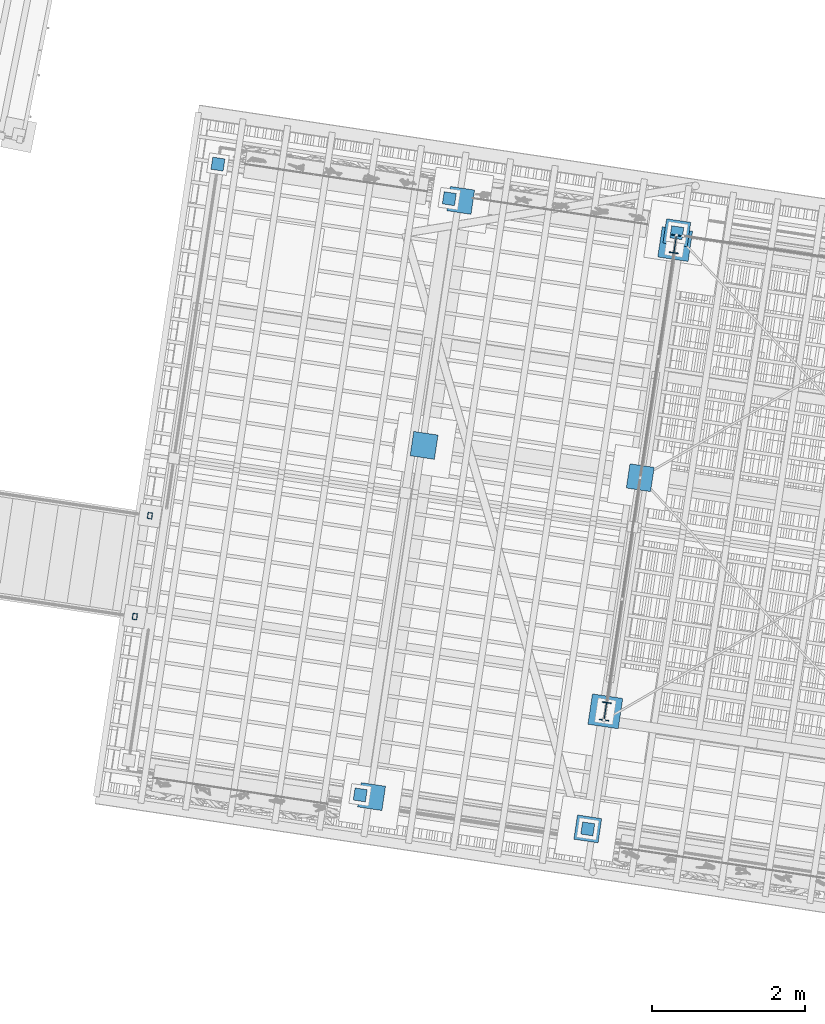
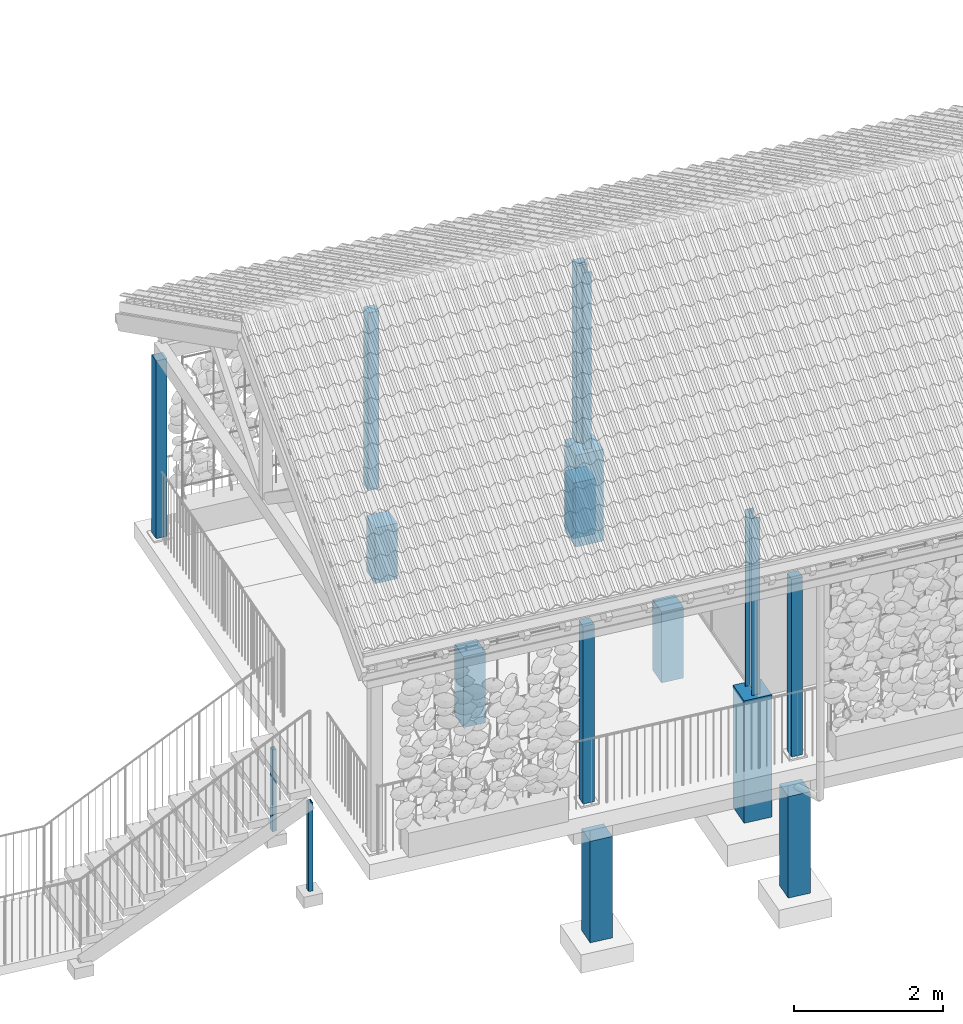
# One storey, part 2 of 131: 17 columns, 3 elements without a shape of their own.
"""IFC4 building model written with IfcOpenShell, lengths in metres."""

import ifcopenshell
import ifcopenshell.guid

model = None  # the IFC model being written
_history = None  # IfcOwnerHistory: only IFC2X3 demands one
_inside = {}  # id of a spatial element -> (the spatial element, [elements in it])
_under = {}  # id of a project, library or spatial element -> (it, [spatial elements below it])
_declared = {}  # id of a project -> (the project, [libraries it declares])
_typed = {}  # id of a type object -> (the type object, [elements of that type])
_made_of = {}  # id of a material, layer set ... -> (it, [elements and type objects made of it])


def new_model(schema):
    """Start an empty IFC model of exactly this schema.

    Asked for "IFC4X3", IfcOpenShell would pick the latest addendum, in which some entities
    have other attributes; the version numbers below select the first issue.
    IFC2X3 requires an IfcOwnerHistory on every rooted entity: one is made here for all.
    """
    global model, _history
    if schema == "IFC4X3":
        model = ifcopenshell.file(schema_version=(4, 3, 0, 0))
    else:
        model = ifcopenshell.file(schema=schema)
    _inside.clear()
    _under.clear()
    _declared.clear()
    _typed.clear()
    _made_of.clear()
    _history = None
    if model.schema == "IFC2X3":
        org = make("IfcOrganization", Name="unknown")
        user = make(
            "IfcPersonAndOrganization",
            ThePerson=make("IfcPerson", FamilyName="unknown"),
            TheOrganization=org,
        )
        app = make(
            "IfcApplication",
            ApplicationDeveloper=org,
            Version="unknown",
            ApplicationFullName="unknown",
            ApplicationIdentifier="unknown",
        )
        _history = make(
            "IfcOwnerHistory",
            OwningUser=user,
            OwningApplication=app,
            ChangeAction="ADDED",
            CreationDate=0,
        )
    return model


def make(cls, **values):
    """One entity of the class cls with the attributes given. An attribute that is None is left unset."""
    return model.create_entity(
        cls, **{name: value for name, value in values.items() if value is not None}
    )


def rooted(cls, **values):
    """An entity with a GlobalId (a new one), such as an element, a storey or a relation."""
    return make(cls, GlobalId=ifcopenshell.guid.new(), OwnerHistory=_history, **values)


def si_unit(unit_type, name, prefix=None):
    """IfcSIUnit, for example si_unit("LENGTHUNIT", "METRE", prefix="MILLI")."""
    return make("IfcSIUnit", UnitType=unit_type, Prefix=prefix, Name=name)


def assignment(units):
    """IfcUnitAssignment: the units of a project."""
    return None if units is None else make("IfcUnitAssignment", Units=units)


def point(xyz):
    """IfcCartesianPoint."""
    return None if xyz is None else make("IfcCartesianPoint", Coordinates=xyz)


def direction(xyz):
    """IfcDirection."""
    return None if xyz is None else make("IfcDirection", DirectionRatios=xyz)


def frame(location, z_axis=None, x_axis=None):
    """IfcAxis2Placement3D, a coordinate frame: its origin and axes. An axis left out is left unset."""
    return make(
        "IfcAxis2Placement3D",
        Location=point(location),
        Axis=direction(z_axis),
        RefDirection=direction(x_axis),
    )


def origin_with_axes():
    """The frame at (0, 0, 0) with the z axis (0, 0, 1) and the x axis (1, 0, 0) written out."""
    return frame((0.0, 0.0, 0.0), z_axis=(0.0, 0.0, 1.0), x_axis=(1.0, 0.0, 0.0))


def place(relative_to, where):
    """IfcLocalPlacement: puts the frame where relative to a parent placement (None: the world)."""
    return make(
        "IfcLocalPlacement", PlacementRelTo=relative_to, RelativePlacement=where
    )


def context(
    kind, dimensions, precision=None, world=None, true_north=None, identifier=None
):
    """IfcGeometricRepresentationContext, for example the 3D "Model" context."""
    return make(
        "IfcGeometricRepresentationContext",
        ContextIdentifier=identifier,
        ContextType=kind,
        CoordinateSpaceDimension=dimensions,
        Precision=precision,
        WorldCoordinateSystem=world,
        TrueNorth=true_north,
    )


def subcontext(parent, identifier, kind, view, scale=None):
    """IfcGeometricRepresentationSubContext, for example "Body" below "Model"."""
    return make(
        "IfcGeometricRepresentationSubContext",
        ContextIdentifier=identifier,
        ContextType=kind,
        ParentContext=parent,
        TargetScale=scale,
        TargetView=view,
    )


def project(units=None, contexts=None):
    """IfcProject with its units and contexts."""
    return rooted(
        "IfcProject",
        Name="project",
        RepresentationContexts=contexts,
        UnitsInContext=assignment(units),
    )


def spatial(cls, under=None, at=None, **own):
    """A site, building, storey or space (cls), placed at a placement, below another one or the project."""
    s = rooted(cls, ObjectPlacement=at, **own)
    if under is not None:
        _under.setdefault(under.id(), (under, []))[1].append(s)
    return s


def polyline(points):
    """IfcPolyline through the points."""
    return make("IfcPolyline", Points=[point(p) for p in points])


def profile(cls, at=None, kind="AREA", **sizes):
    """A parametric profile (cls). Its sizes go by their IFC names, for example OverallWidth=200.0."""
    return make(cls, ProfileType=kind, Position=at, **sizes)


def rectangle(**sizes):
    """IfcRectangleProfileDef."""
    return profile("IfcRectangleProfileDef", **sizes)


def hollow_rectangle(**sizes):
    """IfcRectangleHollowProfileDef."""
    return profile("IfcRectangleHollowProfileDef", **sizes)


def i_section(**sizes):
    """IfcIShapeProfileDef."""
    return profile("IfcIShapeProfileDef", **sizes)


def outline(outer, holes=None, kind="AREA"):
    """IfcArbitraryClosedProfileDef: a profile drawn as a closed curve; with holes, ...WithVoids."""
    if holes is None:
        return make("IfcArbitraryClosedProfileDef", ProfileType=kind, OuterCurve=outer)
    return make(
        "IfcArbitraryProfileDefWithVoids",
        ProfileType=kind,
        OuterCurve=outer,
        InnerCurves=holes,
    )


def extrude(swept, where, along, depth):
    """IfcExtrudedAreaSolid: the profile swept, set in the frame where, extruded along a direction by depth."""
    return make(
        "IfcExtrudedAreaSolid",
        SweptArea=swept,
        Position=where,
        ExtrudedDirection=direction(along),
        Depth=depth,
    )


def shape(context_of_items, identifier, shape_type, items):
    """IfcShapeRepresentation: the items that make up one representation, for example the "Body"."""
    return make(
        "IfcShapeRepresentation",
        ContextOfItems=context_of_items,
        RepresentationIdentifier=identifier,
        RepresentationType=shape_type,
        Items=items,
    )


def material(Name=None, Category=None):
    """IfcMaterial."""
    return make("IfcMaterial", Name=Name, Category=Category)


def material_profile(
    of_material, cross_section, Name=None, Category=None, Priority=None
):
    """IfcMaterialProfile: a cross section and its material."""
    return make(
        "IfcMaterialProfile",
        Name=Name,
        Material=of_material,
        Profile=cross_section,
        Priority=Priority,
        Category=Category,
    )


def profile_set(profiles, Name=None, composite=None):
    """IfcMaterialProfileSet."""
    return make(
        "IfcMaterialProfileSet",
        Name=Name,
        MaterialProfiles=profiles,
        CompositeProfile=composite,
    )


def profile_usage(for_profile_set, cardinal=None, extent=None):
    """IfcMaterialProfileSetUsage: how a profile set lies along its element."""
    return make(
        "IfcMaterialProfileSetUsage",
        ForProfileSet=for_profile_set,
        CardinalPoint=cardinal,
        ReferenceExtent=extent,
    )


def made_of(thing, what):
    """Note that an element or type object is made of a material, layer set ...; save() writes the relation."""
    if what is not None:
        _made_of.setdefault(what.id(), (what, []))[1].append(thing)
    return thing


def type_object(cls, material=None, **own):
    """A type object (cls), such as IfcWallType, which elements share."""
    return made_of(rooted(cls, **own), material)


def element(
    cls,
    number,
    at=None,
    inside=None,
    cuts=None,
    type_object=None,
    material=None,
    context=None,
    identifier="Body",
    shape_type=None,
    held_by="IfcProductDefinitionShape",
    body=None,
    shapes=None,
    **own,
):
    """One element of the class cls, such as IfcWall. Its Tag is "e" and its number.

    at: its placement. inside: the storey or other place that contains it. cuts: it is an
    opening in that element (IfcRelVoidsElement). A single representation is given by context,
    identifier, shape_type and body (its items); several are given by shapes. held_by: the class
    of the entity that holds the representations. save() writes the other relations.
    """
    e = rooted(cls, Tag="e%d" % number, ObjectPlacement=at, **own)
    if body is not None:
        shapes = [shape(context, identifier, shape_type, body)]
    if shapes is not None:
        e.Representation = make(held_by, Representations=shapes)
    if inside is not None:
        _inside.setdefault(inside.id(), (inside, []))[1].append(e)
    if cuts is not None:
        rooted(
            "IfcRelVoidsElement", RelatingBuildingElement=cuts, RelatedOpeningElement=e
        )
    if type_object is not None:
        _typed.setdefault(type_object.id(), (type_object, []))[1].append(e)
    return made_of(e, material)


def aggregate(whole, parts):
    """IfcRelAggregates: a whole, such as a stair, and the parts it consists of."""
    return rooted("IfcRelAggregates", RelatingObject=whole, RelatedObjects=parts)


def save(model, path):
    """Write the relations noted so far, then the file.

    IfcRelAggregates (storeys below a building ...), IfcRelContainedInSpatialStructure (elements
    in a storey), IfcRelDefinesByType, IfcRelAssociatesMaterial and IfcRelDeclares: one each for
    every whole, place, type object, material and project.
    """
    for whole, parts in _under.values():
        aggregate(whole, parts)
    for where, things in _inside.values():
        rooted(
            "IfcRelContainedInSpatialStructure",
            RelatedElements=things,
            RelatingStructure=where,
        )
    for kind, things in _typed.values():
        rooted("IfcRelDefinesByType", RelatedObjects=things, RelatingType=kind)
    for what, things in _made_of.values():
        rooted("IfcRelAssociatesMaterial", RelatedObjects=things, RelatingMaterial=what)
    for by, libraries in _declared.values():
        rooted("IfcRelDeclares", RelatingContext=by, RelatedDefinitions=libraries)
    model.write(path)


model = new_model("IFC4")

# Units and contexts
model_context = context("Model", 3, precision=1e-05, world=origin_with_axes(), true_north=direction((0.0, 1.0)))
body_context = subcontext(model_context, "Body", "Model", "MODEL_VIEW")
ifc_project = project(units=[si_unit("AREAUNIT", "SQUARE_METRE"), si_unit("VOLUMEUNIT", "CUBIC_METRE"), si_unit("LENGTHUNIT", "METRE")], contexts=[model_context])

# Site, building, storey
site_placement = place(None, origin_with_axes())
site = spatial("IfcSite", under=ifc_project, at=site_placement, Name="Lares · Rua das Mercês · artigo 4771")
building_placement = place(site_placement, frame((15.0, 9.7, 14.65), z_axis=(0.0, 0.0, 1.0), x_axis=(0.989015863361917, -0.147809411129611, 0.0)))
building = spatial("IfcBuilding", under=site, at=building_placement, Name="Casa Sobreposta")
storey_placement = place(building_placement, origin_with_axes())
storey = spatial("IfcBuildingStorey", under=building, at=storey_placement, Name="00 · Habitação e estacionamento", Elevation=14.65)

# Columns
ifc_material_1 = material(Name="Aço pintado / Stahl lackiert", Category="steel")
ifc_material_profile_1 = material_profile(ifc_material_1, i_section(OverallWidth=0.12, OverallDepth=0.24, WebThickness=0.0062, FlangeThickness=0.0098))
ifc_profile_set_1 = profile_set([ifc_material_profile_1], Name="IPE240")
ifc_profile_usage_1 = profile_usage(ifc_profile_set_1)
column_type_1 = type_object("IfcColumnType", Name="IPE240 / steel", PredefinedType="NOTDEFINED", material=ifc_profile_set_1)
column_1_placement = place(storey_placement, frame((0.0, 0.12, 0.0), z_axis=(0.0, 0.0, 1.0), x_axis=(1.0, 0.0, 0.0)))
element("IfcColumn", 1, at=column_1_placement, inside=storey, type_object=column_type_1, material=ifc_profile_usage_1, Name="Casa térrea · pilar metálico de referência", context=body_context, shape_type="SweptSolid", body=[
    extrude(i_section(OverallWidth=0.12, OverallDepth=0.24, WebThickness=0.0062, FlangeThickness=0.0098), origin_with_axes(), (0.0, 0.0, 1.0), 2.89),
])
ifc_profile_usage_2 = profile_usage(ifc_profile_set_1)
column_2_placement = place(storey_placement, frame((0.0, 6.28, 0.0), z_axis=(0.0, 0.0, 1.0), x_axis=(1.0, 0.0, 0.0)))
element("IfcColumn", 2, at=column_2_placement, inside=storey, type_object=column_type_1, material=ifc_profile_usage_2, Name="Casa térrea · pilar metálico de referência", context=body_context, shape_type="SweptSolid", body=[
    extrude(i_section(OverallWidth=0.12, OverallDepth=0.24, WebThickness=0.0062, FlangeThickness=0.0098), origin_with_axes(), (0.0, 0.0, 1.0), 2.89),
])

# Stair, columns
stair_placement = place(storey_placement, origin_with_axes())
stair = element("IfcStair", 3, at=stair_placement, inside=storey, Name="Jardim · escada pela fachada poente", PredefinedType="STRAIGHT_RUN_STAIR")
ifc_material_profile_2 = material_profile(ifc_material_1, hollow_rectangle(XDim=0.06, YDim=0.08, WallThickness=0.004))
ifc_profile_set_2 = profile_set([ifc_material_profile_2], Name="RHS80x60x4")
ifc_profile_usage_3 = profile_usage(ifc_profile_set_2)
column_type_2 = type_object("IfcColumnType", Name="RHS80x60x4 / steel", PredefinedType="NOTDEFINED", material=ifc_profile_set_2)
column_3_placement = place(stair_placement, frame((-6.25, 0.435, -1.86767746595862), z_axis=(0.0, 0.0, 1.0), x_axis=(1.0, 0.0, 0.0)))
column_3 = element("IfcColumn", 4, at=column_3_placement, type_object=column_type_2, material=ifc_profile_usage_3, Name="Jardim · montante", context=body_context, shape_type="SweptSolid", body=[
    extrude(hollow_rectangle(XDim=0.06, YDim=0.08, WallThickness=0.004), origin_with_axes(), (0.0, 0.0, 1.0), 1.44851079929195),
])
ifc_profile_usage_4 = profile_usage(ifc_profile_set_2)
column_4_placement = place(stair_placement, frame((-6.25, 1.765, -1.75553574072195), z_axis=(0.0, 0.0, 1.0), x_axis=(1.0, 0.0, 0.0)))
column_4 = element("IfcColumn", 5, at=column_4_placement, type_object=column_type_2, material=ifc_profile_usage_4, Name="Jardim · montante", context=body_context, shape_type="SweptSolid", body=[
    extrude(hollow_rectangle(XDim=0.06, YDim=0.08, WallThickness=0.004), origin_with_axes(), (0.0, 0.0, 1.0), 1.33636907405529),
])
aggregate(stair, [column_3, column_4])

# Assembly, columns
assembly_1_placement = place(storey_placement, origin_with_axes())
assembly_1 = element("IfcElementAssembly", 6, at=assembly_1_placement, inside=storey, Name="Varanda coberta · continuação integral da cobertura", ObjectType="COVERED_PODIUM_BALCONY", PredefinedType="USERDEFINED")
ifc_material_2 = material(Name="Madeira / Bauholz", Category="wood")
ifc_material_profile_3 = material_profile(ifc_material_2, rectangle(XDim=0.16, YDim=0.16))
ifc_profile_set_3 = profile_set([ifc_material_profile_3], Name="TIMBER0.160x0.160")
ifc_profile_usage_5 = profile_usage(ifc_profile_set_3)
column_type_3 = type_object("IfcColumnType", Name="TIMBER0.160x0.160 / timber", PredefinedType="NOTDEFINED", material=ifc_profile_set_3)
column_5_placement = place(assembly_1_placement, frame((-6.05, 6.43, -0.015), z_axis=(0.0, 0.0, 1.0), x_axis=(1.0, 0.0, 0.0)))
column_5 = element("IfcColumn", 7, at=column_5_placement, type_object=column_type_3, material=ifc_profile_usage_5, Name="Varanda coberta · pilar", context=body_context, shape_type="SweptSolid", body=[
    extrude(rectangle(XDim=0.16, YDim=0.16), origin_with_axes(), (0.0, 0.0, 1.0), 2.905),
])
ifc_profile_usage_6 = profile_usage(ifc_profile_set_3)
column_6_placement = place(assembly_1_placement, frame((-3.0, -1.43, -0.015), z_axis=(0.0, 0.0, 1.0), x_axis=(1.0, 0.0, 0.0)))
column_6 = element("IfcColumn", 8, at=column_6_placement, type_object=column_type_3, material=ifc_profile_usage_6, Name="Varanda coberta · pilar", context=body_context, shape_type="SweptSolid", body=[
    extrude(rectangle(XDim=0.16, YDim=0.16), origin_with_axes(), (0.0, 0.0, 1.0), 2.905),
])
ifc_profile_usage_7 = profile_usage(ifc_profile_set_3)
column_7_placement = place(assembly_1_placement, frame((-3.0, 6.43, -0.015), z_axis=(0.0, 0.0, 1.0), x_axis=(1.0, 0.0, 0.0)))
column_7 = element("IfcColumn", 9, at=column_7_placement, type_object=column_type_3, material=ifc_profile_usage_7, Name="Varanda coberta · pilar", context=body_context, shape_type="SweptSolid", body=[
    extrude(rectangle(XDim=0.16, YDim=0.16), origin_with_axes(), (0.0, 0.0, 1.0), 2.905),
])
ifc_profile_usage_8 = profile_usage(ifc_profile_set_3)
column_8_placement = place(assembly_1_placement, frame((0.0, -1.43, -0.015), z_axis=(0.0, 0.0, 1.0), x_axis=(1.0, 0.0, 0.0)))
column_8 = element("IfcColumn", 10, at=column_8_placement, type_object=column_type_3, material=ifc_profile_usage_8, Name="Varanda coberta · pilar", context=body_context, shape_type="SweptSolid", body=[
    extrude(rectangle(XDim=0.16, YDim=0.16), origin_with_axes(), (0.0, 0.0, 1.0), 2.905),
])
ifc_profile_usage_9 = profile_usage(ifc_profile_set_3)
column_9_placement = place(assembly_1_placement, frame((0.0, 6.43, -0.015), z_axis=(0.0, 0.0, 1.0), x_axis=(1.0, 0.0, 0.0)))
column_9 = element("IfcColumn", 11, at=column_9_placement, type_object=column_type_3, material=ifc_profile_usage_9, Name="Varanda coberta · pilar", context=body_context, shape_type="SweptSolid", body=[
    extrude(rectangle(XDim=0.16, YDim=0.16), origin_with_axes(), (0.0, 0.0, 1.0), 2.905),
])
aggregate(assembly_1, [column_5, column_6, column_7, column_8, column_9])

# Columns
ifc_material_3 = material(Name="Betão armado / Stahlbeton", Category="concrete")
column_10_placement = place(storey_placement, frame((0.0, 0.0, -2.0), z_axis=(0.0, 0.0, 1.0), x_axis=(1.0, 0.0, 0.0)))
element("IfcColumn", 12, at=column_10_placement, inside=storey, material=ifc_material_3, Name="Casa térrea · pedestal", context=body_context, shape_type="SweptSolid", body=[
    extrude(outline(polyline([(0.2, -0.08), (0.2, 0.32), (-0.2, 0.32), (-0.2, -0.08), (0.2, -0.08)])), origin_with_axes(), (0.0, 0.0, 1.0), 2.0),
])
column_11_placement = place(storey_placement, frame((0.0, 0.0, -1.5), z_axis=(0.0, 0.0, 1.0), x_axis=(1.0, 0.0, 0.0)))
element("IfcColumn", 13, at=column_11_placement, inside=storey, material=ifc_material_3, Name="Casa térrea · pedestal", context=body_context, shape_type="SweptSolid", body=[
    extrude(outline(polyline([(0.2, 6.08), (0.2, 6.48), (-0.2, 6.48), (-0.2, 6.08), (0.2, 6.08)])), origin_with_axes(), (0.0, 0.0, 1.0), 1.5),
])

# Assembly, columns
assembly_2_placement = place(storey_placement, origin_with_axes())
assembly_2 = element("IfcElementAssembly", 14, at=assembly_2_placement, inside=storey, Name="Pódio · terraço, casa térrea e cisterna", ObjectType="CISTERN_PODIUM", PredefinedType="USERDEFINED")
column_12_placement = place(assembly_2_placement, frame((0.0, 0.0, -2.25), z_axis=(0.0, 0.0, 1.0), x_axis=(1.0, 0.0, 0.0)))
column_12 = element("IfcColumn", 15, at=column_12_placement, material=ifc_material_3, Name="Pódio suspenso · apoio sobre o terreno", context=body_context, shape_type="SweptSolid", body=[
    extrude(outline(polyline([(-2.69, -1.59), (-2.69, -1.27), (-3.01, -1.27), (-3.01, -1.59), (-2.69, -1.59)])), origin_with_axes(), (0.0, 0.0, 1.0), 1.66),
])
column_13_placement = place(assembly_2_placement, frame((0.0, 0.0, -1.75), z_axis=(0.0, 0.0, 1.0), x_axis=(1.0, 0.0, 0.0)))
column_13 = element("IfcColumn", 16, at=column_13_placement, material=ifc_material_3, Name="Pódio suspenso · apoio sobre o terreno", context=body_context, shape_type="SweptSolid", body=[
    extrude(outline(polyline([(-2.69, 3.04), (-2.69, 3.36), (-3.01, 3.36), (-3.01, 3.04), (-2.69, 3.04)])), origin_with_axes(), (0.0, 0.0, 1.0), 1.16),
])
column_14_placement = place(assembly_2_placement, frame((0.0, 0.0, -1.5), z_axis=(0.0, 0.0, 1.0), x_axis=(1.0, 0.0, 0.0)))
column_14 = element("IfcColumn", 17, at=column_14_placement, material=ifc_material_3, Name="Pódio suspenso · apoio sobre o terreno", context=body_context, shape_type="SweptSolid", body=[
    extrude(outline(polyline([(-2.69, 6.27), (-2.69, 6.59), (-3.01, 6.59), (-3.01, 6.27), (-2.69, 6.27)])), origin_with_axes(), (0.0, 0.0, 1.0), 0.91),
])
column_15_placement = place(assembly_2_placement, frame((0.0, 0.0, -2.25), z_axis=(0.0, 0.0, 1.0), x_axis=(1.0, 0.0, 0.0)))
column_15 = element("IfcColumn", 18, at=column_15_placement, material=ifc_material_3, Name="Pódio suspenso · apoio sobre o terreno", context=body_context, shape_type="SweptSolid", body=[
    extrude(outline(polyline([(0.16, -1.59), (0.16, -1.27), (-0.16, -1.27), (-0.16, -1.59), (0.16, -1.59)])), origin_with_axes(), (0.0, 0.0, 1.0), 1.66),
])
column_16_placement = place(assembly_2_placement, frame((0.0, 0.0, -1.75), z_axis=(0.0, 0.0, 1.0), x_axis=(1.0, 0.0, 0.0)))
column_16 = element("IfcColumn", 19, at=column_16_placement, material=ifc_material_3, Name="Pódio suspenso · apoio sobre o terreno", context=body_context, shape_type="SweptSolid", body=[
    extrude(outline(polyline([(0.16, 3.04), (0.16, 3.36), (-0.16, 3.36), (-0.16, 3.04), (0.16, 3.04)])), origin_with_axes(), (0.0, 0.0, 1.0), 1.16),
])
column_17_placement = place(assembly_2_placement, frame((0.0, 0.0, -1.5), z_axis=(0.0, 0.0, 1.0), x_axis=(1.0, 0.0, 0.0)))
column_17 = element("IfcColumn", 20, at=column_17_placement, material=ifc_material_3, Name="Pódio suspenso · apoio sobre o terreno", context=body_context, shape_type="SweptSolid", body=[
    extrude(outline(polyline([(0.16, 6.27), (0.16, 6.59), (-0.16, 6.59), (-0.16, 6.27), (0.16, 6.27)])), origin_with_axes(), (0.0, 0.0, 1.0), 0.91),
])
aggregate(assembly_2, [column_12, column_13, column_14, column_15, column_16, column_17])

save(model, "model.ifc")
